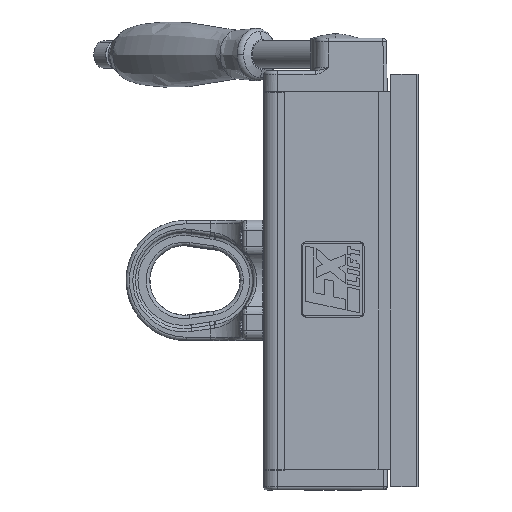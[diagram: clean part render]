
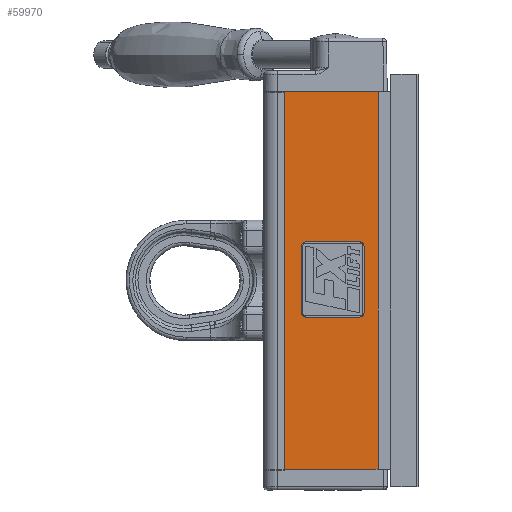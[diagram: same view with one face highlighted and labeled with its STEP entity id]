
A CAD part, left-side view. The second image highlights one B-rep face of the part: STEP entity #59970.
In plain terms, the highlighted planar face has unit normal (-1, 0, 0).
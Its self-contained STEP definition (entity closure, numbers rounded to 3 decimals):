
#1184 = LINE ( 'NONE', #71890, #44119 ) ;
#1373 = VECTOR ( 'NONE', #68316, 1000. ) ;
#1849 = VERTEX_POINT ( 'NONE', #61382 ) ;
#1958 = CARTESIAN_POINT ( 'NONE',  ( -42., -14.063, -21.293 ) ) ;
#2236 = CARTESIAN_POINT ( 'NONE',  ( -42., -16.492, -20.2 ) ) ;
#2471 = CARTESIAN_POINT ( 'NONE',  ( -42., -14.063, -21.293 ) ) ;
#2813 = DIRECTION ( 'NONE',  ( 1., 0., 0. ) ) ;
#3368 = CARTESIAN_POINT ( 'NONE',  ( -42., 19.941, -18.864 ) ) ;
#3373 = CARTESIAN_POINT ( 'NONE',  ( -42., 17.512, 22.427 ) ) ;
#3904 = VECTOR ( 'NONE', #23375, 1000. ) ;
#4812 = DIRECTION ( 'NONE',  ( 0., -1., 0. ) ) ;
#5289 = VERTEX_POINT ( 'NONE', #23209 ) ;
#5488 = AXIS2_PLACEMENT_3D ( 'NONE', #25131, #2813, #41960 ) ;
#5512 = ORIENTED_EDGE ( 'NONE', *, *, #37935, .T. ) ;
#6207 = FACE_BOUND ( 'NONE', #14592, .T. ) ;
#6277 = ORIENTED_EDGE ( 'NONE', *, *, #11314, .T. ) ;
#7336 = ORIENTED_EDGE ( 'NONE', *, *, #40069, .T. ) ;
#7399 = ORIENTED_EDGE ( 'NONE', *, *, #41158, .F. ) ;
#8271 = B_SPLINE_CURVE_WITH_KNOTS ( 'NONE', 3,
 ( #18052, #62812, #29312, #68470 ),
 .UNSPECIFIED., .F., .F.,
 ( 4, 4 ),
 ( 0.333, 0.444 ),
 .UNSPECIFIED. ) ;
#8313 = ORIENTED_EDGE ( 'NONE', *, *, #13450, .T. ) ;
#8816 = VERTEX_POINT ( 'NONE', #41327 ) ;
#9705 = EDGE_CURVE ( 'NONE', #15127, #32131, #61706, .T. ) ;
#10146 = LINE ( 'NONE', #18624, #38155 ) ;
#10184 = CARTESIAN_POINT ( 'NONE',  ( -42., -16.492, 19.998 ) ) ;
#10187 = EDGE_CURVE ( 'NONE', #8816, #5289, #69784, .T. ) ;
#10734 = CARTESIAN_POINT ( 'NONE',  ( -42., 17.512, -21.293 ) ) ;
#11314 = EDGE_CURVE ( 'NONE', #69265, #47056, #10146, .T. ) ;
#11410 = CARTESIAN_POINT ( 'NONE',  ( -42., 18.848, -21.293 ) ) ;
#12989 = DIRECTION ( 'NONE',  ( 0., 1., 0. ) ) ;
#13450 = EDGE_CURVE ( 'NONE', #40512, #1849, #28412, .T. ) ;
#14566 = VECTOR ( 'NONE', #19716, 1000. ) ;
#14592 = EDGE_LOOP ( 'NONE', ( #7336, #64240, #5512, #64169, #50115, #6277, #50040, #72076 ) ) ;
#15127 = VERTEX_POINT ( 'NONE', #10184 ) ;
#17037 = CARTESIAN_POINT ( 'NONE',  ( -42., 19.941, -20.2 ) ) ;
#18052 = CARTESIAN_POINT ( 'NONE',  ( -42., -14.063, 22.427 ) ) ;
#18624 = CARTESIAN_POINT ( 'NONE',  ( -42., -14.063, -21.293 ) ) ;
#19716 = DIRECTION ( 'NONE',  ( 0., 0., -1. ) ) ;
#21958 = CARTESIAN_POINT ( 'NONE',  ( -42., 17.512, -21.293 ) ) ;
#23209 = CARTESIAN_POINT ( 'NONE',  ( -42., -14.063, 22.427 ) ) ;
#23375 = DIRECTION ( 'NONE',  ( 0., 0., -1. ) ) ;
#23549 = CARTESIAN_POINT ( 'NONE',  ( -42., 30., 110. ) ) ;
#24212 = CARTESIAN_POINT ( 'NONE',  ( -42., 17.512, 22.427 ) ) ;
#24560 = CARTESIAN_POINT ( 'NONE',  ( -42., -16.492, -18.864 ) ) ;
#24887 = LINE ( 'NONE', #54579, #66011 ) ;
#25131 = CARTESIAN_POINT ( 'NONE',  ( -42., 30., 110. ) ) ;
#28244 = EDGE_CURVE ( 'NONE', #36739, #63842, #24887, .T. ) ;
#28412 = LINE ( 'NONE', #37783, #71339 ) ;
#29312 = CARTESIAN_POINT ( 'NONE',  ( -42., -16.492, 21.334 ) ) ;
#32131 = VERTEX_POINT ( 'NONE', #50877 ) ;
#34249 = FACE_OUTER_BOUND ( 'NONE', #56956, .T. ) ;
#36032 = CARTESIAN_POINT ( 'NONE',  ( -42., -15.399, -21.293 ) ) ;
#36132 = CARTESIAN_POINT ( 'NONE',  ( -42., 30., 110. ) ) ;
#36360 = PLANE ( 'NONE',  #5488 ) ;
#36739 = VERTEX_POINT ( 'NONE', #3368 ) ;
#37783 = CARTESIAN_POINT ( 'NONE',  ( -42., 30., -110. ) ) ;
#37935 = EDGE_CURVE ( 'NONE', #5289, #15127, #8271, .T. ) ;
#38031 = VERTEX_POINT ( 'NONE', #36132 ) ;
#38155 = VECTOR ( 'NONE', #12989, 1000. ) ;
#40069 = EDGE_CURVE ( 'NONE', #63842, #8816, #71835, .T. ) ;
#40512 = VERTEX_POINT ( 'NONE', #49846 ) ;
#40787 = LINE ( 'NONE', #23549, #1373 ) ;
#41158 = EDGE_CURVE ( 'NONE', #62441, #1849, #70614, .T. ) ;
#41327 = CARTESIAN_POINT ( 'NONE',  ( -42., 17.512, 22.427 ) ) ;
#41960 = DIRECTION ( 'NONE',  ( 0., 0., -1. ) ) ;
#42055 = EDGE_CURVE ( 'NONE', #38031, #62441, #1184, .T. ) ;
#43973 = B_SPLINE_CURVE_WITH_KNOTS ( 'NONE', 3,
 ( #24560, #2236, #36032, #2471 ),
 .UNSPECIFIED., .F., .F.,
 ( 4, 4 ),
 ( 0.556, 0.667 ),
 .UNSPECIFIED. ) ;
#44119 = VECTOR ( 'NONE', #4812, 1000. ) ;
#44939 = EDGE_CURVE ( 'NONE', #32131, #69265, #43973, .T. ) ;
#45597 = CARTESIAN_POINT ( 'NONE',  ( -42., -16.492, 19.998 ) ) ;
#46442 = CARTESIAN_POINT ( 'NONE',  ( -42., 19.941, 21.334 ) ) ;
#47056 = VERTEX_POINT ( 'NONE', #10734 ) ;
#49846 = CARTESIAN_POINT ( 'NONE',  ( -42., 30., -110. ) ) ;
#50040 = ORIENTED_EDGE ( 'NONE', *, *, #64648, .T. ) ;
#50115 = ORIENTED_EDGE ( 'NONE', *, *, #44939, .T. ) ;
#50877 = CARTESIAN_POINT ( 'NONE',  ( -42., -16.492, -18.864 ) ) ;
#54236 = B_SPLINE_CURVE_WITH_KNOTS ( 'NONE', 3,
 ( #21958, #11410, #17037, #56158 ),
 .UNSPECIFIED., .F., .F.,
 ( 4, 4 ),
 ( 0.778, 1. ),
 .UNSPECIFIED. ) ;
#54579 = CARTESIAN_POINT ( 'NONE',  ( -42., 19.941, -18.864 ) ) ;
#56158 = CARTESIAN_POINT ( 'NONE',  ( -42., 19.941, -18.864 ) ) ;
#56956 = EDGE_LOOP ( 'NONE', ( #8313, #7399, #64297, #68676 ) ) ;
#57537 = CARTESIAN_POINT ( 'NONE',  ( -42., -25.5, 110. ) ) ;
#57694 = CARTESIAN_POINT ( 'NONE',  ( -42., 18.848, 22.427 ) ) ;
#58382 = VECTOR ( 'NONE', #70483, 1000. ) ;
#58858 = CARTESIAN_POINT ( 'NONE',  ( -42., -25.5, 110. ) ) ;
#59970 = ADVANCED_FACE ( 'NONE', ( #34249, #6207 ), #36360, .F. ) ;
#59972 = CARTESIAN_POINT ( 'NONE',  ( -42., 19.941, 19.998 ) ) ;
#60066 = DIRECTION ( 'NONE',  ( 0., -1., 0. ) ) ;
#61382 = CARTESIAN_POINT ( 'NONE',  ( -42., -25.5, -110. ) ) ;
#61706 = LINE ( 'NONE', #45597, #3904 ) ;
#62441 = VERTEX_POINT ( 'NONE', #57537 ) ;
#62812 = CARTESIAN_POINT ( 'NONE',  ( -42., -15.399, 22.427 ) ) ;
#62845 = CARTESIAN_POINT ( 'NONE',  ( -42., 19.941, 19.998 ) ) ;
#63842 = VERTEX_POINT ( 'NONE', #59972 ) ;
#64169 = ORIENTED_EDGE ( 'NONE', *, *, #9705, .T. ) ;
#64240 = ORIENTED_EDGE ( 'NONE', *, *, #10187, .T. ) ;
#64297 = ORIENTED_EDGE ( 'NONE', *, *, #42055, .F. ) ;
#64648 = EDGE_CURVE ( 'NONE', #47056, #36739, #54236, .T. ) ;
#66011 = VECTOR ( 'NONE', #71258, 1000. ) ;
#68316 = DIRECTION ( 'NONE',  ( 0., 0., -1. ) ) ;
#68470 = CARTESIAN_POINT ( 'NONE',  ( -42., -16.492, 19.998 ) ) ;
#68676 = ORIENTED_EDGE ( 'NONE', *, *, #69046, .T. ) ;
#69046 = EDGE_CURVE ( 'NONE', #38031, #40512, #40787, .T. ) ;
#69265 = VERTEX_POINT ( 'NONE', #1958 ) ;
#69784 = LINE ( 'NONE', #3373, #58382 ) ;
#70483 = DIRECTION ( 'NONE',  ( 0., -1., 0. ) ) ;
#70614 = LINE ( 'NONE', #58858, #14566 ) ;
#71258 = DIRECTION ( 'NONE',  ( 0., 0., 1. ) ) ;
#71339 = VECTOR ( 'NONE', #60066, 1000. ) ;
#71835 = B_SPLINE_CURVE_WITH_KNOTS ( 'NONE', 3,
 ( #62845, #46442, #57694, #24212 ),
 .UNSPECIFIED., .F., .F.,
 ( 4, 4 ),
 ( 0.111, 0.222 ),
 .UNSPECIFIED. ) ;
#71890 = CARTESIAN_POINT ( 'NONE',  ( -42., 30., 110. ) ) ;
#72076 = ORIENTED_EDGE ( 'NONE', *, *, #28244, .T. ) ;
